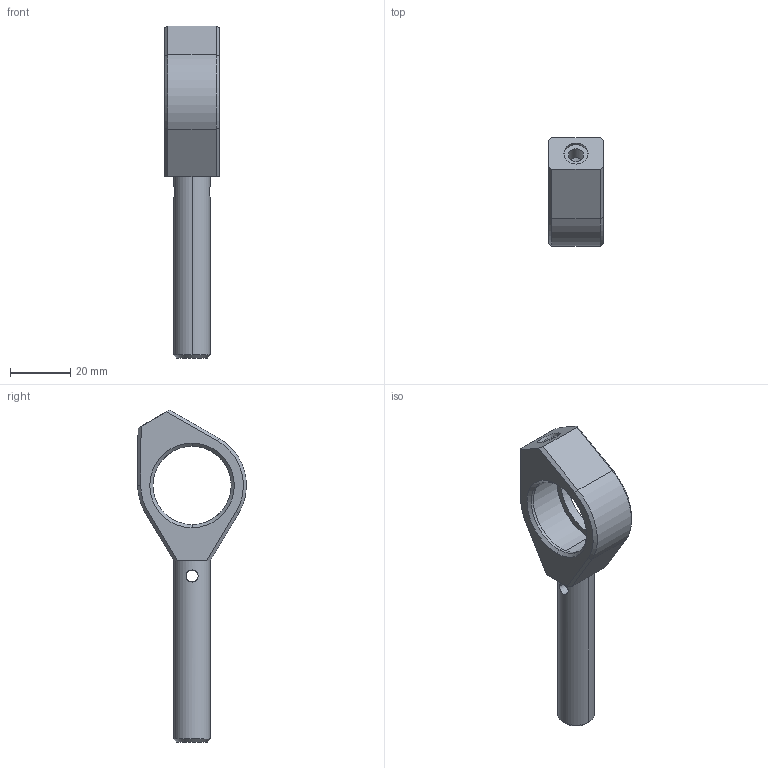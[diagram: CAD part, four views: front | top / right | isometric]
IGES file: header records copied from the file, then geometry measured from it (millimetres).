
Global section: file name: No Iges File Name specified; native system: AutoDesk Inventor R12.0; preprocessor: AutoDesk Inventor Iges Exporter R12.0; author: No Author specified; organization: No Organization specified; date: 20100803.114258; units: millimetre
Bounding box: 18 x 35.96 x 110 mm (x, y, z)
Volume: 18101.8 mm3; surface area: 8518.2 mm2
Topology: 1 solids, 3 shells, 70 faces, 165 edges, 101 vertices
Faces by surface type: plane 32, bspline 14, revolution 12, cone 6, cylinder 6
